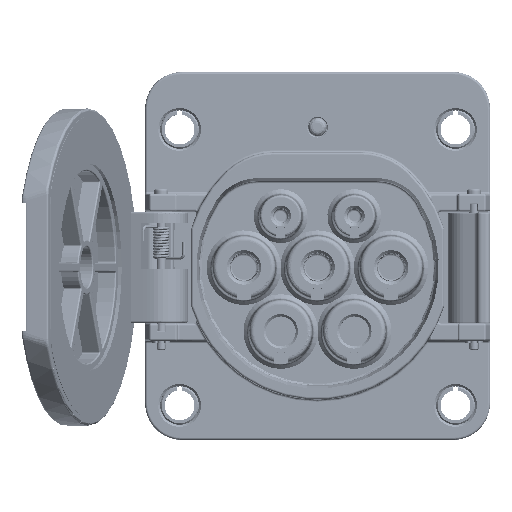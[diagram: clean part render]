
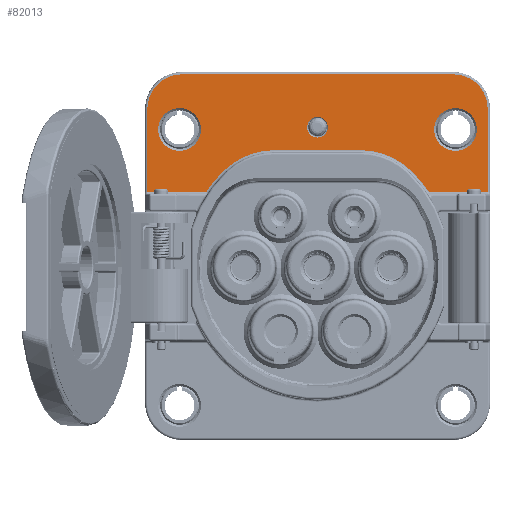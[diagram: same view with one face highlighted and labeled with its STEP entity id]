
A CAD part, top view. The second image highlights one B-rep face of the part: STEP entity #82013.
In plain terms, the highlighted planar face has unit normal (0, 0, 1).
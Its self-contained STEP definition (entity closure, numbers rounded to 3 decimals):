
#2407=DIRECTION('',(-1.,0.,0.));
#2408=VECTOR('',#2407,12.848);
#2409=CARTESIAN_POINT('',(-24.152,16.5,47.9));
#2410=LINE('',#2409,#2408);
#2411=DIRECTION('',(0.,-1.,0.));
#2412=VECTOR('',#2411,18.);
#2413=CARTESIAN_POINT('',(-37.,34.5,47.9));
#2414=LINE('',#2413,#2412);
#2415=CARTESIAN_POINT('',(-29.5,34.5,47.9));
#2416=DIRECTION('',(0.,0.,1.));
#2417=DIRECTION('',(0.,1.,0.));
#2418=AXIS2_PLACEMENT_3D('',#2415,#2416,#2417);
#2420=DIRECTION('',(-1.,0.,0.));
#2421=VECTOR('',#2420,59.);
#2422=CARTESIAN_POINT('',(29.5,42.,47.9));
#2423=LINE('',#2422,#2421);
#2424=CARTESIAN_POINT('',(29.5,34.5,47.9));
#2425=DIRECTION('',(0.,0.,1.));
#2426=DIRECTION('',(1.,0.,0.));
#2427=AXIS2_PLACEMENT_3D('',#2424,#2425,#2426);
#2429=DIRECTION('',(0.,1.,0.));
#2430=VECTOR('',#2429,18.);
#2431=CARTESIAN_POINT('',(37.,16.5,47.9));
#2432=LINE('',#2431,#2430);
#2433=DIRECTION('',(-1.,0.,0.));
#2434=VECTOR('',#2433,12.848);
#2435=CARTESIAN_POINT('',(37.,16.5,47.9));
#2436=LINE('',#2435,#2434);
#2437=CARTESIAN_POINT('',(0.,0.,47.9));
#2438=DIRECTION('',(0.,0.,1.));
#2439=DIRECTION('',(0.826,0.564,0.));
#2440=AXIS2_PLACEMENT_3D('',#2437,#2438,#2439);
#2442=CARTESIAN_POINT('',(9.437,10.,47.9));
#2443=DIRECTION('',(0.,0.,1.));
#2444=DIRECTION('',(0.686,0.727,0.));
#2445=AXIS2_PLACEMENT_3D('',#2442,#2443,#2444);
#2447=DIRECTION('',(-1.,0.,0.));
#2448=VECTOR('',#2447,18.875);
#2449=CARTESIAN_POINT('',(9.437,25.5,47.9));
#2450=LINE('',#2449,#2448);
#2451=CARTESIAN_POINT('',(-9.437,10.,47.9));
#2452=DIRECTION('',(0.,0.,1.));
#2453=DIRECTION('',(0.,1.,0.));
#2454=AXIS2_PLACEMENT_3D('',#2451,#2452,#2453);
#2456=CARTESIAN_POINT('',(0.,0.,47.9));
#2457=DIRECTION('',(0.,0.,1.));
#2458=DIRECTION('',(-0.686,0.727,0.));
#2459=AXIS2_PLACEMENT_3D('',#2456,#2457,#2458);
#2461=CARTESIAN_POINT('',(0.,30.5,47.9));
#2462=DIRECTION('',(0.,0.,1.));
#2463=DIRECTION('',(1.,0.,0.));
#2464=AXIS2_PLACEMENT_3D('',#2461,#2462,#2463);
#2466=CARTESIAN_POINT('',(0.,30.5,47.9));
#2467=DIRECTION('',(0.,0.,1.));
#2468=DIRECTION('',(-1.,0.,0.));
#2469=AXIS2_PLACEMENT_3D('',#2466,#2467,#2468);
#2471=CARTESIAN_POINT('',(-30.,30.,47.9));
#2472=DIRECTION('',(0.,0.,-1.));
#2473=DIRECTION('',(1.,0.,0.));
#2474=AXIS2_PLACEMENT_3D('',#2471,#2472,#2473);
#2476=CARTESIAN_POINT('',(-30.,30.,47.9));
#2477=DIRECTION('',(0.,0.,-1.));
#2478=DIRECTION('',(-1.,0.,0.));
#2479=AXIS2_PLACEMENT_3D('',#2476,#2477,#2478);
#2481=CARTESIAN_POINT('',(30.,30.,47.9));
#2482=DIRECTION('',(0.,0.,-1.));
#2483=DIRECTION('',(1.,0.,0.));
#2484=AXIS2_PLACEMENT_3D('',#2481,#2482,#2483);
#2486=CARTESIAN_POINT('',(30.,30.,47.9));
#2487=DIRECTION('',(0.,0.,-1.));
#2488=DIRECTION('',(-1.,0.,0.));
#2489=AXIS2_PLACEMENT_3D('',#2486,#2487,#2488);
#71416=CARTESIAN_POINT('',(2.25,30.5,47.9));
#71417=CARTESIAN_POINT('',(-2.25,30.5,47.9));
#71418=VERTEX_POINT('',#71416);
#71419=VERTEX_POINT('',#71417);
#73084=CARTESIAN_POINT('',(-25.35,30.,47.9));
#73085=CARTESIAN_POINT('',(-34.65,30.,47.9));
#73086=VERTEX_POINT('',#73084);
#73087=VERTEX_POINT('',#73085);
#73096=CARTESIAN_POINT('',(34.65,30.,47.9));
#73097=CARTESIAN_POINT('',(25.35,30.,47.9));
#73098=VERTEX_POINT('',#73096);
#73099=VERTEX_POINT('',#73097);
#74433=CARTESIAN_POINT('',(-29.5,42.,47.9));
#74434=CARTESIAN_POINT('',(-37.,34.5,47.9));
#74435=VERTEX_POINT('',#74433);
#74436=VERTEX_POINT('',#74434);
#74441=CARTESIAN_POINT('',(29.5,42.,47.9));
#74442=VERTEX_POINT('',#74441);
#74445=CARTESIAN_POINT('',(37.,34.5,47.9));
#74446=VERTEX_POINT('',#74445);
#74563=CARTESIAN_POINT('',(-24.152,16.5,47.9));
#74564=CARTESIAN_POINT('',(-37.,16.5,47.9));
#74565=VERTEX_POINT('',#74563);
#74566=VERTEX_POINT('',#74564);
#74573=CARTESIAN_POINT('',(-20.076,21.273,47.9));
#74574=VERTEX_POINT('',#74573);
#74577=CARTESIAN_POINT('',(-9.437,25.5,47.9));
#74578=VERTEX_POINT('',#74577);
#74581=CARTESIAN_POINT('',(9.437,25.5,47.9));
#74582=VERTEX_POINT('',#74581);
#74585=CARTESIAN_POINT('',(20.076,21.273,47.9));
#74586=VERTEX_POINT('',#74585);
#74591=CARTESIAN_POINT('',(24.152,16.5,47.9));
#74592=VERTEX_POINT('',#74591);
#74619=CARTESIAN_POINT('',(37.,16.5,47.9));
#74620=VERTEX_POINT('',#74619);
#81965=CARTESIAN_POINT('',(0.,0.,47.9));
#81966=DIRECTION('',(0.,0.,1.));
#81967=DIRECTION('',(1.,0.,0.));
#81968=AXIS2_PLACEMENT_3D('',#81965,#81966,#81967);
#81969=PLANE('',#81968);
#81971=ORIENTED_EDGE('',*,*,#81970,.T.);
#81973=ORIENTED_EDGE('',*,*,#81972,.F.);
#81975=ORIENTED_EDGE('',*,*,#81974,.F.);
#81977=ORIENTED_EDGE('',*,*,#81976,.F.);
#81978=ORIENTED_EDGE('',*,*,#81955,.F.);
#81980=ORIENTED_EDGE('',*,*,#81979,.F.);
#81982=ORIENTED_EDGE('',*,*,#81981,.T.);
#81984=ORIENTED_EDGE('',*,*,#81983,.T.);
#81986=ORIENTED_EDGE('',*,*,#81985,.T.);
#81988=ORIENTED_EDGE('',*,*,#81987,.T.);
#81990=ORIENTED_EDGE('',*,*,#81989,.T.);
#81992=ORIENTED_EDGE('',*,*,#81991,.T.);
#81993=EDGE_LOOP('',(#81971,#81973,#81975,#81977,#81978,#81980,#81982,#81984,
#81986,#81988,#81990,#81992));
#81994=FACE_OUTER_BOUND('',#81993,.F.);
#81996=ORIENTED_EDGE('',*,*,#81995,.T.);
#81998=ORIENTED_EDGE('',*,*,#81997,.T.);
#81999=EDGE_LOOP('',(#81996,#81998));
#82000=FACE_BOUND('',#81999,.F.);
#82002=ORIENTED_EDGE('',*,*,#82001,.F.);
#82004=ORIENTED_EDGE('',*,*,#82003,.F.);
#82005=EDGE_LOOP('',(#82002,#82004));
#82006=FACE_BOUND('',#82005,.F.);
#82008=ORIENTED_EDGE('',*,*,#82007,.F.);
#82010=ORIENTED_EDGE('',*,*,#82009,.F.);
#82011=EDGE_LOOP('',(#82008,#82010));
#82012=FACE_BOUND('',#82011,.F.);
#82013=ADVANCED_FACE('',(#81994,#82000,#82006,#82012),#81969,.T.);
#2419=CIRCLE('',#2418,7.5);
#2428=CIRCLE('',#2427,7.5);
#2441=CIRCLE('',#2440,29.25);
#2446=CIRCLE('',#2445,15.5);
#2455=CIRCLE('',#2454,15.5);
#2460=CIRCLE('',#2459,29.25);
#2465=CIRCLE('',#2464,2.25);
#2470=CIRCLE('',#2469,2.25);
#2475=CIRCLE('',#2474,4.65);
#2480=CIRCLE('',#2479,4.65);
#2485=CIRCLE('',#2484,4.65);
#2490=CIRCLE('',#2489,4.65);
#81955=EDGE_CURVE('',#74446,#74442,#2428,.T.);
#81970=EDGE_CURVE('',#74565,#74566,#2410,.T.);
#81972=EDGE_CURVE('',#74436,#74566,#2414,.T.);
#81974=EDGE_CURVE('',#74435,#74436,#2419,.T.);
#81976=EDGE_CURVE('',#74442,#74435,#2423,.T.);
#81979=EDGE_CURVE('',#74620,#74446,#2432,.T.);
#81981=EDGE_CURVE('',#74620,#74592,#2436,.T.);
#81983=EDGE_CURVE('',#74592,#74586,#2441,.T.);
#81985=EDGE_CURVE('',#74586,#74582,#2446,.T.);
#81987=EDGE_CURVE('',#74582,#74578,#2450,.T.);
#81989=EDGE_CURVE('',#74578,#74574,#2455,.T.);
#81991=EDGE_CURVE('',#74574,#74565,#2460,.T.);
#81995=EDGE_CURVE('',#71418,#71419,#2465,.T.);
#81997=EDGE_CURVE('',#71419,#71418,#2470,.T.);
#82001=EDGE_CURVE('',#73086,#73087,#2475,.T.);
#82003=EDGE_CURVE('',#73087,#73086,#2480,.T.);
#82007=EDGE_CURVE('',#73098,#73099,#2485,.T.);
#82009=EDGE_CURVE('',#73099,#73098,#2490,.T.);
